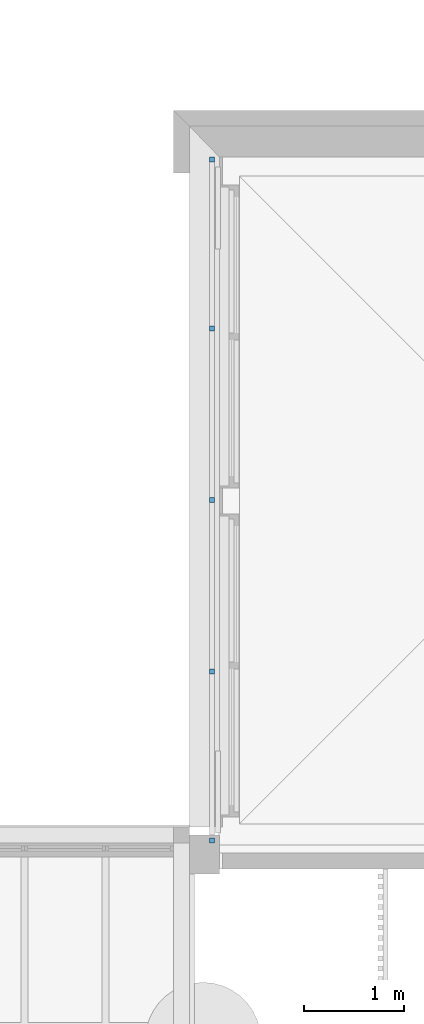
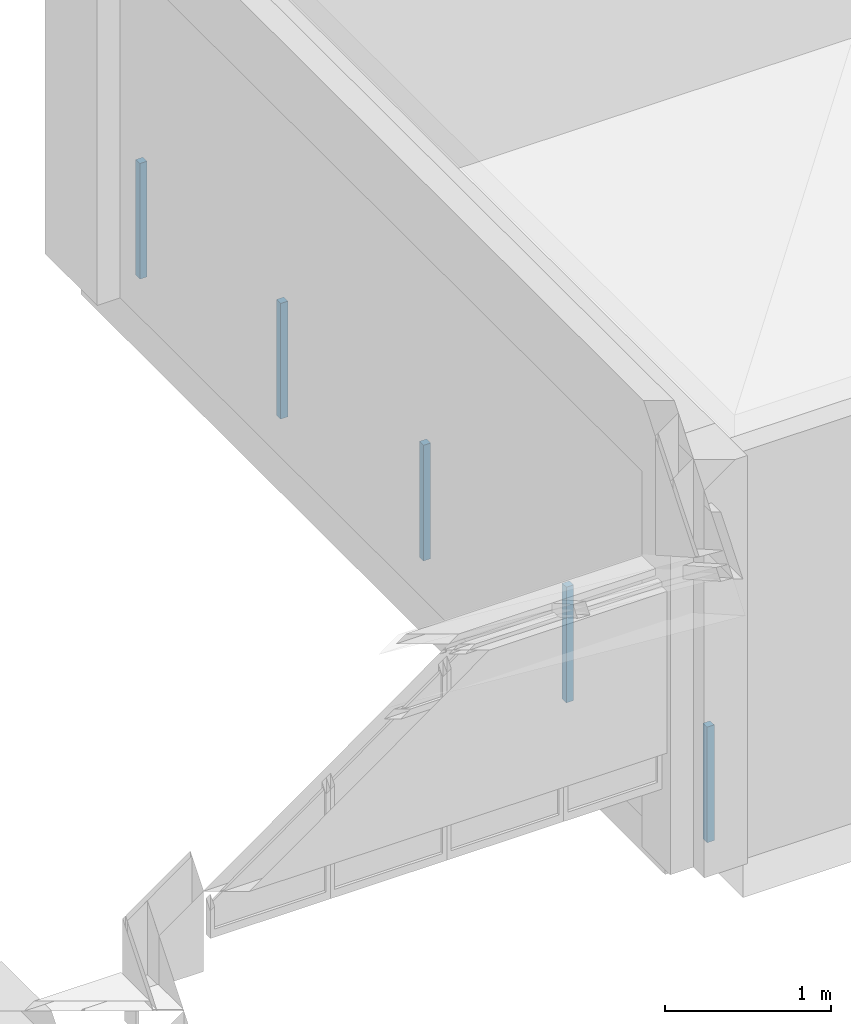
# One storey, part 14 of 51: 5 slabs.
"""IFC2X3 building model written with IfcOpenShell, lengths in metres."""

from ifc_helpers import new_model, entity, si_unit, converted_unit, derived_unit, direction, frame, frame_2d, origin, place, context, subcontext, project, spatial, rectangle, extrude, material, layer, layer_set, layer_usage, type_object, element, save


model = new_model("IFC2X3")

# Units and contexts
model_context = context("Model", 3, precision=1e-05, world=origin(), true_north=direction((6.123031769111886e-17, 1.0)))
body_context = subcontext(model_context, "Body", "Model", "MODEL_VIEW")
ifc_project = project(units=[si_unit("LENGTHUNIT", "METRE"), si_unit("AREAUNIT", "SQUARE_METRE"), si_unit("VOLUMEUNIT", "CUBIC_METRE"), converted_unit("PLANEANGLEUNIT", "DEGREE", entity("IfcRatioMeasure", 0.017453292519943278), si_unit("PLANEANGLEUNIT", "RADIAN"), dimensions=[0, 0, 0, 0, 0, 0, 0]), si_unit("MASSUNIT", "GRAM", prefix="KILO"), derived_unit("MASSDENSITYUNIT", [(si_unit("MASSUNIT", "GRAM", prefix="KILO"), 1), (si_unit("LENGTHUNIT", "METRE"), -3)]), derived_unit("MOMENTOFINERTIAUNIT", [(si_unit("LENGTHUNIT", "METRE"), 4)]), si_unit("TIMEUNIT", "SECOND"), si_unit("FREQUENCYUNIT", "HERTZ"), si_unit("THERMODYNAMICTEMPERATUREUNIT", "DEGREE_CELSIUS"), derived_unit("THERMALTRANSMITTANCEUNIT", [(si_unit("MASSUNIT", "GRAM", prefix="KILO"), 1), (si_unit("THERMODYNAMICTEMPERATUREUNIT", "KELVIN"), -1), (si_unit("TIMEUNIT", "SECOND"), -3)]), derived_unit("THERMALCONDUCTANCEUNIT", [(si_unit("MASSUNIT", "GRAM", prefix="KILO"), 1), (si_unit("LENGTHUNIT", "METRE"), 1), (si_unit("THERMODYNAMICTEMPERATUREUNIT", "KELVIN"), -1), (si_unit("TIMEUNIT", "SECOND"), -3)]), derived_unit("VOLUMETRICFLOWRATEUNIT", [(si_unit("LENGTHUNIT", "METRE"), 3), (si_unit("TIMEUNIT", "SECOND"), -1)]), derived_unit("MASSFLOWRATEUNIT", [(si_unit("MASSUNIT", "GRAM", prefix="KILO"), 1), (si_unit("TIMEUNIT", "SECOND"), -1)]), derived_unit("ROTATIONALFREQUENCYUNIT", [(si_unit("TIMEUNIT", "SECOND"), -1)]), si_unit("ELECTRICCURRENTUNIT", "AMPERE"), si_unit("ELECTRICVOLTAGEUNIT", "VOLT"), si_unit("POWERUNIT", "WATT"), si_unit("FORCEUNIT", "NEWTON", prefix="KILO"), si_unit("ILLUMINANCEUNIT", "LUX"), si_unit("LUMINOUSFLUXUNIT", "LUMEN"), si_unit("LUMINOUSINTENSITYUNIT", "CANDELA"), derived_unit("USERDEFINED", [(si_unit("MASSUNIT", "GRAM", prefix="KILO"), -1), (si_unit("LENGTHUNIT", "METRE"), -2), (si_unit("TIMEUNIT", "SECOND"), 3), (si_unit("LUMINOUSFLUXUNIT", "LUMEN"), 1)]), derived_unit("USERDEFINED", [(si_unit("MASSUNIT", "GRAM", prefix="KILO"), 1), (si_unit("LENGTHUNIT", "METRE"), 3), (si_unit("TIMEUNIT", "SECOND"), -3), (si_unit("ELECTRICCURRENTUNIT", "AMPERE"), -2)]), derived_unit("USERDEFINED", [(si_unit("LENGTHUNIT", "METRE"), 2), (si_unit("TIMEUNIT", "SECOND"), -2)]), derived_unit("SOUNDPOWERUNIT", [(si_unit("MASSUNIT", "GRAM", prefix="KILO"), 1), (si_unit("LENGTHUNIT", "METRE"), 2), (si_unit("TIMEUNIT", "SECOND"), -3)]), derived_unit("SOUNDPRESSUREUNIT", [(si_unit("MASSUNIT", "GRAM", prefix="KILO"), 1), (si_unit("LENGTHUNIT", "METRE"), -1), (si_unit("TIMEUNIT", "SECOND"), -2)]), derived_unit("LINEARVELOCITYUNIT", [(si_unit("LENGTHUNIT", "METRE"), 1), (si_unit("TIMEUNIT", "SECOND"), -1)]), si_unit("PRESSUREUNIT", "PASCAL"), derived_unit("USERDEFINED", [(si_unit("LENGTHUNIT", "METRE"), -2), (si_unit("MASSUNIT", "GRAM", prefix="KILO"), 1), (si_unit("TIMEUNIT", "SECOND"), -2)]), derived_unit("LINEARFORCEUNIT", [(si_unit("MASSUNIT", "GRAM", prefix="KILO"), 1), (si_unit("LENGTHUNIT", "METRE"), 1), (si_unit("TIMEUNIT", "SECOND"), -2), (si_unit("LENGTHUNIT", "METRE"), -1)]), derived_unit("PLANARFORCEUNIT", [(si_unit("MASSUNIT", "GRAM", prefix="KILO"), 1), (si_unit("LENGTHUNIT", "METRE"), 1), (si_unit("TIMEUNIT", "SECOND"), -2), (si_unit("LENGTHUNIT", "METRE"), -2)]), derived_unit("SPECIFICHEATCAPACITYUNIT", [(si_unit("LENGTHUNIT", "METRE"), 2), (si_unit("TIMEUNIT", "SECOND"), -2), (si_unit("THERMODYNAMICTEMPERATUREUNIT", "KELVIN"), -1)]), derived_unit("VAPORPERMEABILITYUNIT", [(si_unit("TIMEUNIT", "SECOND"), 1), (si_unit("LENGTHUNIT", "METRE"), -1)]), derived_unit("DYNAMICVISCOSITYUNIT", [(si_unit("MASSUNIT", "GRAM", prefix="KILO"), 1), (si_unit("LENGTHUNIT", "METRE"), -1), (si_unit("TIMEUNIT", "SECOND"), -1)]), derived_unit("THERMALEXPANSIONCOEFFICIENTUNIT", [(si_unit("THERMODYNAMICTEMPERATUREUNIT", "KELVIN"), -1)])], contexts=[model_context])

# Site, building, storey
site_placement = place(None, origin())
site = spatial("IfcSite", under=ifc_project, at=site_placement, Name="Default", CompositionType="ELEMENT")
building_placement = place(site_placement, origin())
building = spatial("IfcBuilding", under=site, at=building_placement, CompositionType="ELEMENT")
storey_placement = place(building_placement, frame((0.0, 0.0, 3.06)))
storey = spatial("IfcBuildingStorey", under=building, at=storey_placement, Name="ÉTAGE", CompositionType="ELEMENT", Elevation=3.06)

# Slabs
ifc_material = material(Name="Bois - Pin granuleux horizontal")
ifc_layer = layer(ifc_material, 0.85)
ifc_layer_set = layer_set([ifc_layer], Name="Sol:Dalle-001")
ifc_layer_usage = layer_usage(ifc_layer_set, "AXIS3", "POSITIVE", 0.0)
slab_type = type_object("IfcSlabType", Name="Sol:Dalle-001", PredefinedType="FLOOR", material=ifc_layer_set)
slab_1_placement = place(storey_placement, origin())
element("IfcSlab", 1, at=slab_1_placement, inside=storey, type_object=slab_type, material=ifc_layer_usage, Name="Sol:Dalle-001", ObjectType="Sol:Dalle-001", PredefinedType="FLOOR", context=body_context, shape_type="SweptSolid", body=[
    extrude(rectangle(XDim=0.05000000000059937, YDim=0.04999999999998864, at=frame_2d((2.1649348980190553e-15, 0.0), x_axis=(1.0, 0.0))), frame((120.905752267, 15.332209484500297, 0.8500000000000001), z_axis=(0.0, 0.0, -1.0), x_axis=(0.0, 1.0, 0.0)), (0.0, 0.0, 1.0), 0.8500000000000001),
])
slab_2_placement = place(storey_placement, origin())
element("IfcSlab", 2, at=slab_2_placement, inside=storey, type_object=slab_type, material=ifc_layer_usage, Name="Sol:Dalle-001", ObjectType="Sol:Dalle-001", PredefinedType="FLOOR", context=body_context, shape_type="SweptSolid", body=[
    extrude(rectangle(XDim=0.05000000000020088, YDim=0.04999999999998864, at=frame_2d((-2.1649348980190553e-15, 0.0), x_axis=(1.0, 0.0))), frame((120.905752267, 22.162209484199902, 0.8500000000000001), z_axis=(0.0, 0.0, -1.0), x_axis=(0.0, 1.0, 0.0)), (0.0, 0.0, 1.0), 0.8500000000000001),
])
slab_3_placement = place(storey_placement, origin())
element("IfcSlab", 3, at=slab_3_placement, inside=storey, type_object=slab_type, material=ifc_layer_usage, Name="Sol:Dalle-001", ObjectType="Sol:Dalle-001", PredefinedType="FLOOR", context=body_context, shape_type="SweptSolid", body=[
    extrude(rectangle(XDim=0.05000000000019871, YDim=0.04999999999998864, at=frame_2d((1.0824674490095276e-15, 0.0), x_axis=(1.0, 0.0))), frame((120.905752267, 18.747209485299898, 0.8500000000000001), z_axis=(0.0, 0.0, -1.0), x_axis=(0.0, 1.0, 0.0)), (0.0, 0.0, 1.0), 0.8500000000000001),
])
slab_4_placement = place(storey_placement, origin())
element("IfcSlab", 4, at=slab_4_placement, inside=storey, type_object=slab_type, material=ifc_layer_usage, Name="Sol:Dalle-001", ObjectType="Sol:Dalle-001", PredefinedType="FLOOR", context=body_context, shape_type="SweptSolid", body=[
    extrude(rectangle(XDim=0.05000000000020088, YDim=0.04999999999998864, at=frame_2d((-2.1649348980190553e-15, 0.0), x_axis=(1.0, 0.0))), frame((120.905752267, 20.4672094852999, 0.8500000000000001), z_axis=(0.0, 0.0, -1.0), x_axis=(0.0, 1.0, 0.0)), (0.0, 0.0, 1.0), 0.8500000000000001),
])
slab_5_placement = place(storey_placement, origin())
element("IfcSlab", 5, at=slab_5_placement, inside=storey, type_object=slab_type, material=ifc_layer_usage, Name="Sol:Dalle-001", ObjectType="Sol:Dalle-001", PredefinedType="FLOOR", context=body_context, shape_type="SweptSolid", body=[
    extrude(rectangle(XDim=0.05000000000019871, YDim=0.04999999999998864, at=frame_2d((1.0824674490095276e-15, 0.0), x_axis=(1.0, 0.0))), frame((120.905752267, 17.0272094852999, 0.8500000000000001), z_axis=(0.0, 0.0, -1.0), x_axis=(0.0, 1.0, 0.0)), (0.0, 0.0, 1.0), 0.8500000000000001),
])

save(model, "model.ifc")
